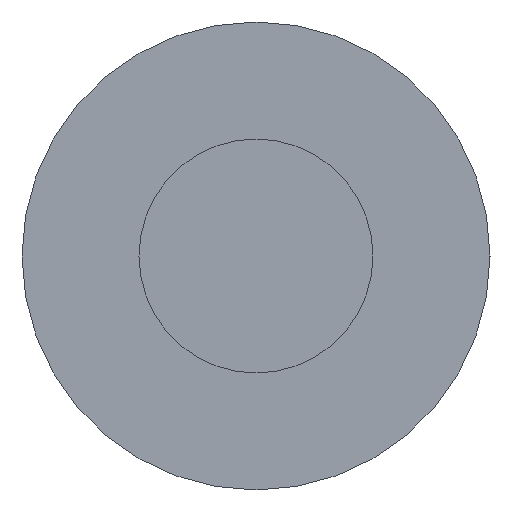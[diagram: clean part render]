
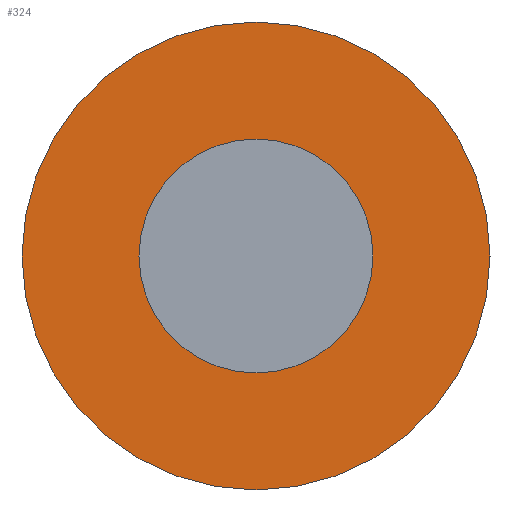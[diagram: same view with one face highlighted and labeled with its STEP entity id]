
A CAD part, left-side view. The second image highlights one B-rep face of the part: STEP entity #324.
In plain terms, the highlighted planar face has unit normal (-1, 0, 0).
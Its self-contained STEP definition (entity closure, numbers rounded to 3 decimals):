
#3 = DIRECTION ( 'NONE',  ( 0., 0., -1. ) ) ;
#10 = CIRCLE ( 'NONE', #172, 12. ) ;
#15 = PLANE ( 'NONE',  #87 ) ;
#17 = CARTESIAN_POINT ( 'NONE',  ( 0., 0., 6. ) ) ;
#47 = CARTESIAN_POINT ( 'NONE',  ( 0., 0., 12. ) ) ;
#57 = CARTESIAN_POINT ( 'NONE',  ( 0., 0., 0. ) ) ;
#65 = DIRECTION ( 'NONE',  ( 0., 0., 1. ) ) ;
#71 = DIRECTION ( 'NONE',  ( -1., 0., 0. ) ) ;
#79 = DIRECTION ( 'NONE',  ( 0., 0., 1. ) ) ;
#87 = AXIS2_PLACEMENT_3D ( 'NONE', #121, #129, #3 ) ;
#95 = DIRECTION ( 'NONE',  ( 0., 0., 1. ) ) ;
#98 = VERTEX_POINT ( 'NONE', #315 ) ;
#104 = CIRCLE ( 'NONE', #302, 12. ) ;
#112 = FACE_BOUND ( 'NONE', #212, .T. ) ;
#121 = CARTESIAN_POINT ( 'NONE',  ( 0., 0., 0. ) ) ;
#123 = ORIENTED_EDGE ( 'NONE', *, *, #151, .T. ) ;
#129 = DIRECTION ( 'NONE',  ( 1., 0., 0. ) ) ;
#136 = ORIENTED_EDGE ( 'NONE', *, *, #204, .F. ) ;
#143 = AXIS2_PLACEMENT_3D ( 'NONE', #205, #346, #79 ) ;
#144 = VERTEX_POINT ( 'NONE', #277 ) ;
#151 = EDGE_CURVE ( 'NONE', #98, #181, #104, .T. ) ;
#157 = DIRECTION ( 'NONE',  ( -1., 0., 0. ) ) ;
#161 = CARTESIAN_POINT ( 'NONE',  ( 0., 0., 0. ) ) ;
#172 = AXIS2_PLACEMENT_3D ( 'NONE', #174, #157, #95 ) ;
#174 = CARTESIAN_POINT ( 'NONE',  ( 0., 0., 0. ) ) ;
#181 = VERTEX_POINT ( 'NONE', #47 ) ;
#186 = DIRECTION ( 'NONE',  ( -1., 0., 0. ) ) ;
#204 = EDGE_CURVE ( 'NONE', #144, #268, #306, .T. ) ;
#205 = CARTESIAN_POINT ( 'NONE',  ( 0., 0., 0. ) ) ;
#212 = EDGE_LOOP ( 'NONE', ( #288, #136 ) ) ;
#220 = AXIS2_PLACEMENT_3D ( 'NONE', #161, #186, #65 ) ;
#231 = EDGE_LOOP ( 'NONE', ( #311, #123 ) ) ;
#251 = CIRCLE ( 'NONE', #143, 6. ) ;
#254 = DIRECTION ( 'NONE',  ( 0., 0., 1. ) ) ;
#268 = VERTEX_POINT ( 'NONE', #17 ) ;
#270 = EDGE_CURVE ( 'NONE', #268, #144, #251, .T. ) ;
#277 = CARTESIAN_POINT ( 'NONE',  ( 0., 0., -6. ) ) ;
#288 = ORIENTED_EDGE ( 'NONE', *, *, #270, .F. ) ;
#302 = AXIS2_PLACEMENT_3D ( 'NONE', #57, #71, #254 ) ;
#306 = CIRCLE ( 'NONE', #220, 6. ) ;
#311 = ORIENTED_EDGE ( 'NONE', *, *, #336, .T. ) ;
#315 = CARTESIAN_POINT ( 'NONE',  ( 0., 0., -12. ) ) ;
#324 = ADVANCED_FACE ( 'NONE', ( #112, #340 ), #15, .F. ) ;
#336 = EDGE_CURVE ( 'NONE', #181, #98, #10, .T. ) ;
#340 = FACE_OUTER_BOUND ( 'NONE', #231, .T. ) ;
#346 = DIRECTION ( 'NONE',  ( -1., 0., 0. ) ) ;
